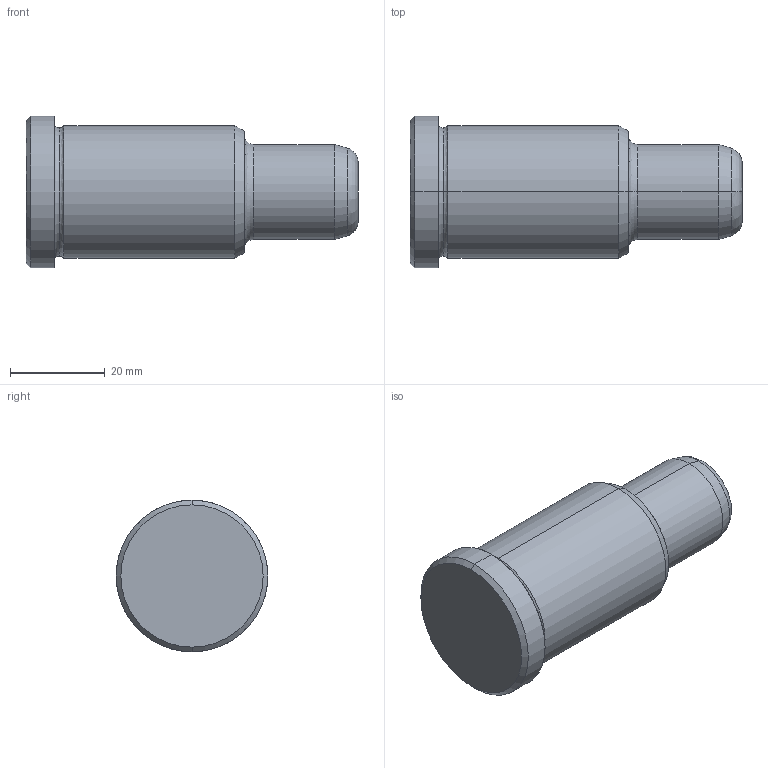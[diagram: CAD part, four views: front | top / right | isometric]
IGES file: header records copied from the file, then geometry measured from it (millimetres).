
Start section: START RECORD GO HERE.
Global section: file name: 351-20X46X70.igs; native system: DASSAULT SYSTEMES CATIA V5 R20 - www.3ds.com; preprocessor: CATIA Version 5 Release 20 ; author: Utente; organization: NB04-ASUS; date: 20210827.150009; units: millimetre
Bounding box: 70 x 32 x 32 mm (x, y, z)
Surface area: 6941.9 mm2 (no closed solid volume)
Topology: 0 solids, 0 shells, 24 faces, 140 edges, 140 vertices
Faces by surface type: revolution 20, plane 4
